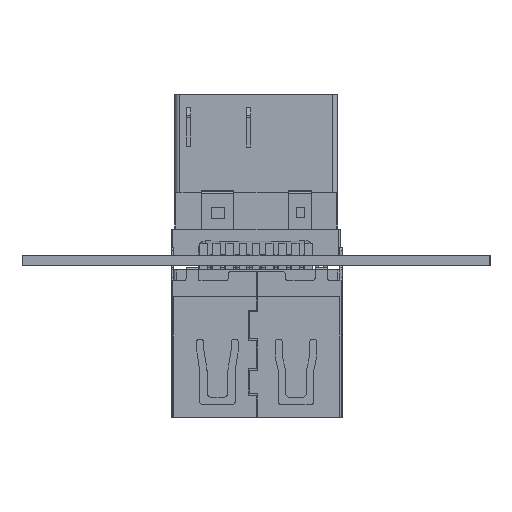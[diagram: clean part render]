
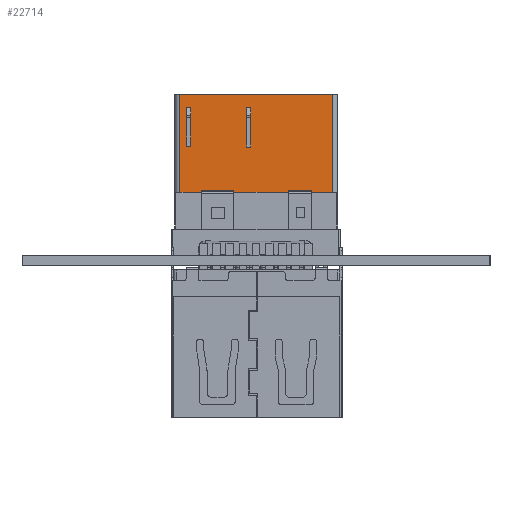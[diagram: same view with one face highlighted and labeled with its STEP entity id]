
A CAD part, front view. The second image highlights one B-rep face of the part: STEP entity #22714.
In plain terms, the highlighted planar face has unit normal (0, -1, 0) as drawn and (0, 0, -1) by its records, which use the part's own axes.
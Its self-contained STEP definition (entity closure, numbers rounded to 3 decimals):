
#22537 = EDGE_CURVE('',#22538,#22540,#22542,.T.);
#22538 = VERTEX_POINT('',#22539);
#22539 = CARTESIAN_POINT('',(-4.763,4.8,-2.306));
#22540 = VERTEX_POINT('',#22541);
#22541 = CARTESIAN_POINT('',(-8.937,4.8,-2.306));
#22542 = LINE('',#22543,#22544);
#22543 = CARTESIAN_POINT('',(-12.732,4.8,-2.306));
#22544 = VECTOR('',#22545,1.);
#22545 = DIRECTION('',(-1.,0.,0.));
#22621 = VERTEX_POINT('',#22622);
#22622 = CARTESIAN_POINT('',(-2.294,4.8,-2.306));
#22628 = EDGE_CURVE('',#22629,#22621,#22631,.T.);
#22629 = VERTEX_POINT('',#22630);
#22630 = CARTESIAN_POINT('',(-0.647,4.8,-2.306));
#22631 = LINE('',#22632,#22633);
#22632 = CARTESIAN_POINT('',(-12.732,4.8,-2.306));
#22633 = VECTOR('',#22634,1.);
#22634 = DIRECTION('',(-1.,0.,0.));
#22714 = ADVANCED_FACE('',(#22715,#22765,#22815),#22895,.F.);
#22715 = FACE_BOUND('',#22716,.T.);
#22716 = EDGE_LOOP('',(#22717,#22727,#22735,#22743,#22751,#22759));
#22717 = ORIENTED_EDGE('',*,*,#22718,.F.);
#22718 = EDGE_CURVE('',#22719,#22721,#22723,.T.);
#22719 = VERTEX_POINT('',#22720);
#22720 = CARTESIAN_POINT('',(-1.161,11.298,
    -2.306));
#22721 = VERTEX_POINT('',#22722);
#22722 = CARTESIAN_POINT('',(-1.161,10.526,
    -2.306));
#22723 = LINE('',#22724,#22725);
#22724 = CARTESIAN_POINT('',(-1.161,11.398,
    -2.306));
#22725 = VECTOR('',#22726,1.);
#22726 = DIRECTION('',(0.,-1.,0.));
#22727 = ORIENTED_EDGE('',*,*,#22728,.T.);
#22728 = EDGE_CURVE('',#22719,#22729,#22731,.T.);
#22729 = VERTEX_POINT('',#22730);
#22730 = CARTESIAN_POINT('',(-1.476,11.298,
    -2.306));
#22731 = LINE('',#22732,#22733);
#22732 = CARTESIAN_POINT('',(-12.732,11.298,
    -2.306));
#22733 = VECTOR('',#22734,1.);
#22734 = DIRECTION('',(-1.,0.,0.));
#22735 = ORIENTED_EDGE('',*,*,#22736,.F.);
#22736 = EDGE_CURVE('',#22737,#22729,#22739,.T.);
#22737 = VERTEX_POINT('',#22738);
#22738 = CARTESIAN_POINT('',(-1.476,10.526,
    -2.306));
#22739 = LINE('',#22740,#22741);
#22740 = CARTESIAN_POINT('',(-1.476,11.398,
    -2.306));
#22741 = VECTOR('',#22742,1.);
#22742 = DIRECTION('',(0.,1.,0.));
#22743 = ORIENTED_EDGE('',*,*,#22744,.F.);
#22744 = EDGE_CURVE('',#22745,#22737,#22747,.T.);
#22745 = VERTEX_POINT('',#22746);
#22746 = CARTESIAN_POINT('',(-1.476,8.33,
    -2.306));
#22747 = LINE('',#22748,#22749);
#22748 = CARTESIAN_POINT('',(-1.476,11.398,
    -2.306));
#22749 = VECTOR('',#22750,1.);
#22750 = DIRECTION('',(0.,1.,0.));
#22751 = ORIENTED_EDGE('',*,*,#22752,.F.);
#22752 = EDGE_CURVE('',#22753,#22745,#22755,.T.);
#22753 = VERTEX_POINT('',#22754);
#22754 = CARTESIAN_POINT('',(-1.161,8.33,
    -2.306));
#22755 = LINE('',#22756,#22757);
#22756 = CARTESIAN_POINT('',(-1.161,8.33,
    -2.306));
#22757 = VECTOR('',#22758,1.);
#22758 = DIRECTION('',(-1.,0.,0.));
#22759 = ORIENTED_EDGE('',*,*,#22760,.T.);
#22760 = EDGE_CURVE('',#22753,#22721,#22761,.T.);
#22761 = LINE('',#22762,#22763);
#22762 = CARTESIAN_POINT('',(-1.161,12.3,-2.306));
#22763 = VECTOR('',#22764,1.);
#22764 = DIRECTION('',(0.,1.,0.));
#22765 = FACE_BOUND('',#22766,.T.);
#22766 = EDGE_LOOP('',(#22767,#22777,#22785,#22793,#22801,#22809));
#22767 = ORIENTED_EDGE('',*,*,#22768,.F.);
#22768 = EDGE_CURVE('',#22769,#22771,#22773,.T.);
#22769 = VERTEX_POINT('',#22770);
#22770 = CARTESIAN_POINT('',(-5.748,11.298,
    -2.306));
#22771 = VERTEX_POINT('',#22772);
#22772 = CARTESIAN_POINT('',(-5.748,10.526,
    -2.306));
#22773 = LINE('',#22774,#22775);
#22774 = CARTESIAN_POINT('',(-5.748,11.398,
    -2.306));
#22775 = VECTOR('',#22776,1.);
#22776 = DIRECTION('',(0.,-1.,0.));
#22777 = ORIENTED_EDGE('',*,*,#22778,.T.);
#22778 = EDGE_CURVE('',#22769,#22779,#22781,.T.);
#22779 = VERTEX_POINT('',#22780);
#22780 = CARTESIAN_POINT('',(-6.079,11.298,
    -2.306));
#22781 = LINE('',#22782,#22783);
#22782 = CARTESIAN_POINT('',(-12.732,11.298,
    -2.306));
#22783 = VECTOR('',#22784,1.);
#22784 = DIRECTION('',(-1.,0.,0.));
#22785 = ORIENTED_EDGE('',*,*,#22786,.F.);
#22786 = EDGE_CURVE('',#22787,#22779,#22789,.T.);
#22787 = VERTEX_POINT('',#22788);
#22788 = CARTESIAN_POINT('',(-6.079,10.526,
    -2.306));
#22789 = LINE('',#22790,#22791);
#22790 = CARTESIAN_POINT('',(-6.079,11.398,
    -2.306));
#22791 = VECTOR('',#22792,1.);
#22792 = DIRECTION('',(0.,1.,0.));
#22793 = ORIENTED_EDGE('',*,*,#22794,.F.);
#22794 = EDGE_CURVE('',#22795,#22787,#22797,.T.);
#22795 = VERTEX_POINT('',#22796);
#22796 = CARTESIAN_POINT('',(-6.079,8.27,
    -2.306));
#22797 = LINE('',#22798,#22799);
#22798 = CARTESIAN_POINT('',(-6.079,11.398,
    -2.306));
#22799 = VECTOR('',#22800,1.);
#22800 = DIRECTION('',(0.,1.,0.));
#22801 = ORIENTED_EDGE('',*,*,#22802,.F.);
#22802 = EDGE_CURVE('',#22803,#22795,#22805,.T.);
#22803 = VERTEX_POINT('',#22804);
#22804 = CARTESIAN_POINT('',(-5.748,8.27,
    -2.306));
#22805 = LINE('',#22806,#22807);
#22806 = CARTESIAN_POINT('',(-5.748,8.27,
    -2.306));
#22807 = VECTOR('',#22808,1.);
#22808 = DIRECTION('',(-1.,0.,0.));
#22809 = ORIENTED_EDGE('',*,*,#22810,.T.);
#22810 = EDGE_CURVE('',#22803,#22771,#22811,.T.);
#22811 = LINE('',#22812,#22813);
#22812 = CARTESIAN_POINT('',(-5.748,12.3,-2.306));
#22813 = VECTOR('',#22814,1.);
#22814 = DIRECTION('',(0.,1.,0.));
#22815 = FACE_BOUND('',#22816,.T.);
#22816 = EDGE_LOOP('',(#22817,#22825,#22833,#22841,#22849,#22857,#22865,
    #22871,#22872,#22880,#22888,#22894));
#22817 = ORIENTED_EDGE('',*,*,#22818,.F.);
#22818 = EDGE_CURVE('',#22819,#22540,#22821,.T.);
#22819 = VERTEX_POINT('',#22820);
#22820 = CARTESIAN_POINT('',(-8.937,4.95,-2.306));
#22821 = LINE('',#22822,#22823);
#22822 = CARTESIAN_POINT('',(-8.937,4.85,-2.306));
#22823 = VECTOR('',#22824,1.);
#22824 = DIRECTION('',(0.,-1.,0.));
#22825 = ORIENTED_EDGE('',*,*,#22826,.T.);
#22826 = EDGE_CURVE('',#22819,#22827,#22829,.T.);
#22827 = VERTEX_POINT('',#22828);
#22828 = CARTESIAN_POINT('',(-10.705,4.95,-2.306));
#22829 = LINE('',#22830,#22831);
#22830 = CARTESIAN_POINT('',(-12.732,4.95,-2.306));
#22831 = VECTOR('',#22832,1.);
#22832 = DIRECTION('',(-1.,0.,0.));
#22833 = ORIENTED_EDGE('',*,*,#22834,.T.);
#22834 = EDGE_CURVE('',#22827,#22835,#22837,.T.);
#22835 = VERTEX_POINT('',#22836);
#22836 = CARTESIAN_POINT('',(-10.705,4.8,-2.306));
#22837 = LINE('',#22838,#22839);
#22838 = CARTESIAN_POINT('',(-10.705,4.85,-2.306));
#22839 = VECTOR('',#22840,1.);
#22840 = DIRECTION('',(0.,-1.,0.));
#22841 = ORIENTED_EDGE('',*,*,#22842,.T.);
#22842 = EDGE_CURVE('',#22835,#22843,#22845,.T.);
#22843 = VERTEX_POINT('',#22844);
#22844 = CARTESIAN_POINT('',(-12.322,4.8,-2.306));
#22845 = LINE('',#22846,#22847);
#22846 = CARTESIAN_POINT('',(-12.732,4.8,-2.306));
#22847 = VECTOR('',#22848,1.);
#22848 = DIRECTION('',(-1.,0.,0.));
#22849 = ORIENTED_EDGE('',*,*,#22850,.T.);
#22850 = EDGE_CURVE('',#22843,#22851,#22853,.T.);
#22851 = VERTEX_POINT('',#22852);
#22852 = CARTESIAN_POINT('',(-12.322,12.3,-2.306));
#22853 = LINE('',#22854,#22855);
#22854 = CARTESIAN_POINT('',(-12.322,12.3,-2.306));
#22855 = VECTOR('',#22856,1.);
#22856 = DIRECTION('',(0.,1.,0.));
#22857 = ORIENTED_EDGE('',*,*,#22858,.F.);
#22858 = EDGE_CURVE('',#22859,#22851,#22861,.T.);
#22859 = VERTEX_POINT('',#22860);
#22860 = CARTESIAN_POINT('',(-0.647,12.3,-2.306));
#22861 = LINE('',#22862,#22863);
#22862 = CARTESIAN_POINT('',(-12.732,12.3,-2.306));
#22863 = VECTOR('',#22864,1.);
#22864 = DIRECTION('',(-1.,0.,0.));
#22865 = ORIENTED_EDGE('',*,*,#22866,.T.);
#22866 = EDGE_CURVE('',#22859,#22629,#22867,.T.);
#22867 = LINE('',#22868,#22869);
#22868 = CARTESIAN_POINT('',(-0.647,4.8,-2.306));
#22869 = VECTOR('',#22870,1.);
#22870 = DIRECTION('',(0.,-1.,0.));
#22871 = ORIENTED_EDGE('',*,*,#22628,.T.);
#22872 = ORIENTED_EDGE('',*,*,#22873,.F.);
#22873 = EDGE_CURVE('',#22874,#22621,#22876,.T.);
#22874 = VERTEX_POINT('',#22875);
#22875 = CARTESIAN_POINT('',(-2.294,4.95,-2.306));
#22876 = LINE('',#22877,#22878);
#22877 = CARTESIAN_POINT('',(-2.294,4.85,-2.306));
#22878 = VECTOR('',#22879,1.);
#22879 = DIRECTION('',(0.,-1.,0.));
#22880 = ORIENTED_EDGE('',*,*,#22881,.T.);
#22881 = EDGE_CURVE('',#22874,#22882,#22884,.T.);
#22882 = VERTEX_POINT('',#22883);
#22883 = CARTESIAN_POINT('',(-4.763,4.95,-2.306));
#22884 = LINE('',#22885,#22886);
#22885 = CARTESIAN_POINT('',(-12.732,4.95,-2.306));
#22886 = VECTOR('',#22887,1.);
#22887 = DIRECTION('',(-1.,0.,0.));
#22888 = ORIENTED_EDGE('',*,*,#22889,.T.);
#22889 = EDGE_CURVE('',#22882,#22538,#22890,.T.);
#22890 = LINE('',#22891,#22892);
#22891 = CARTESIAN_POINT('',(-4.763,4.85,-2.306));
#22892 = VECTOR('',#22893,1.);
#22893 = DIRECTION('',(0.,-1.,0.));
#22894 = ORIENTED_EDGE('',*,*,#22537,.T.);
#22895 = PLANE('',#22896);
#22896 = AXIS2_PLACEMENT_3D('',#22897,#22898,#22899);
#22897 = CARTESIAN_POINT('',(-12.732,12.3,-2.306));
#22898 = DIRECTION('',(0.,0.,1.));
#22899 = DIRECTION('',(1.,0.,0.));
